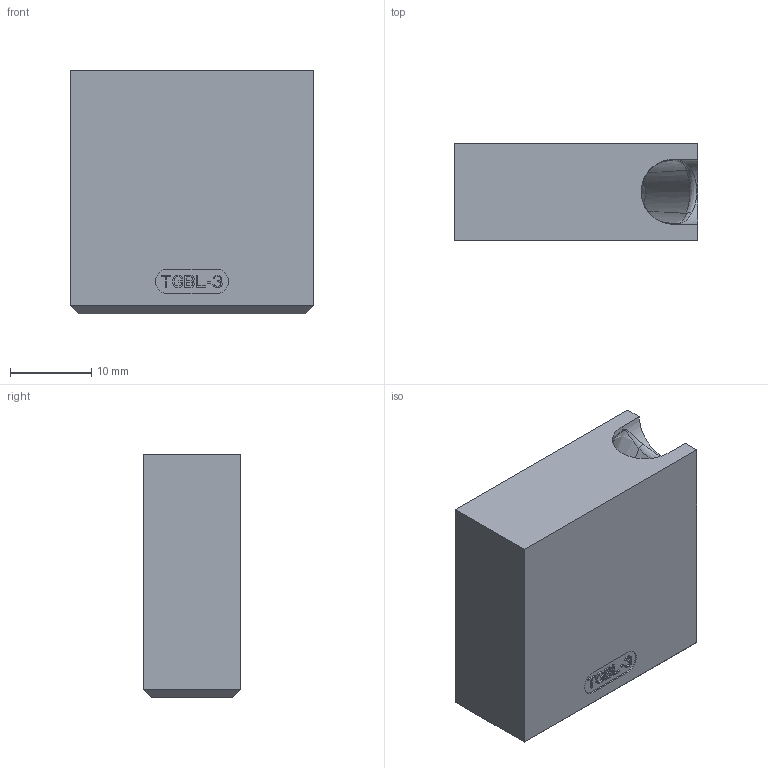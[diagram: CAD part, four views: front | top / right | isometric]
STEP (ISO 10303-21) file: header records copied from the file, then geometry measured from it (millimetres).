
FILE_DESCRIPTION((''),'2;1');
FILE_NAME('TGBL-3_EXPORT','2026-08-12T14:16:09',('gsawatzky'),(''),'CREO PARAMETRIC BY PTC INC, 2021304','CREO PARAMETRIC BY PTC INC, 2021304','');
FILE_SCHEMA(('AUTOMOTIVE_DESIGN { 1 0 10303 214 1 1 1 1 }'));
Length unit declared in the file: millimetre
Products named in the file (1): TGBL-3_EXPORT
Bounding box: 30 x 12 x 30 mm (x, y, z)
Volume: 9255.9 mm3; surface area: 4355.5 mm2
Topology: 1 solids, 4 shells, 259 faces, 717 edges, 464 vertices
Faces by surface type: plane 201, bspline 30, cylinder 13, sphere 7, cone 4, extrusion 2, torus 2
Entity records: 12871 total; most frequent: CARTESIAN_POINT 4241, ORIENTED_EDGE 1400, DIRECTION 1156, PRESENTATION_STYLE_ASSIGNMENT 710, STYLED_ITEM 710, CURVE_STYLE 706, EDGE_CURVE 706, VECTOR 592
